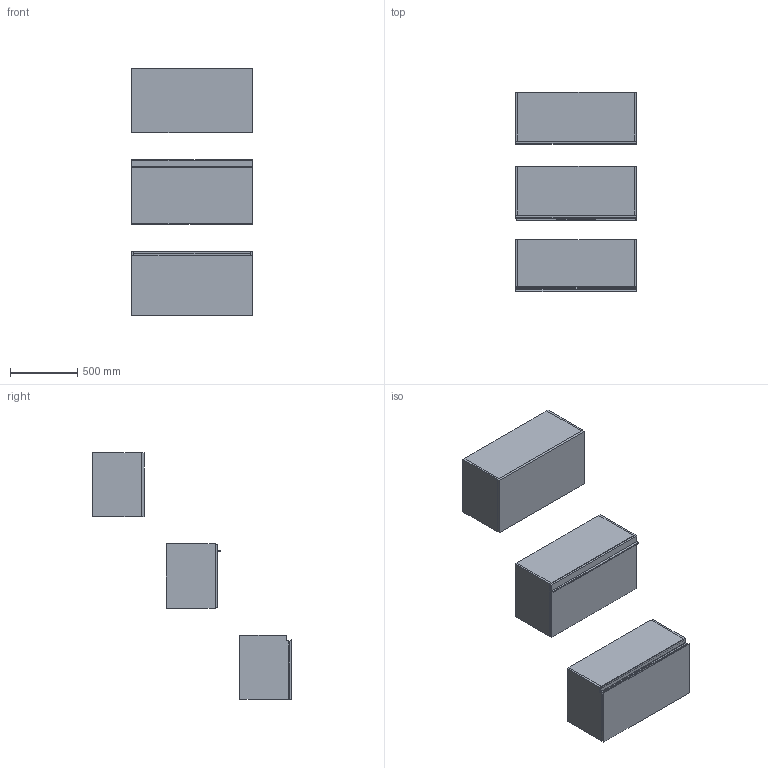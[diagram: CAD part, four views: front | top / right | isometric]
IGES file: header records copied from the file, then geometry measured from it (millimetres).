
Start section: Data from Parasolid IGES Translator 19.0.9, Copyright(c) 2006 Siemens PL M Software. All Rights Reserved.
Global section: file name: noorth-SI-H 48 D 38,8 W 90_8405.igs; native system: By Siemens PLM Incorporated; preprocessor: XPlus GENERIC/IGES 19.0.9; author: Noname; organization: Noname; date: 20200601.102519; units: metre
Bounding box: 900 x 1485.1 x 1840.01 mm (x, y, z)
Volume: 74393136 mm3; surface area: 11441922.3 mm2
Topology: 20 solids, 20 shells, 178 faces, 382 edges, 234 vertices
Faces by surface type: plane 134, extrusion 16, bspline 16, cylinder 12
